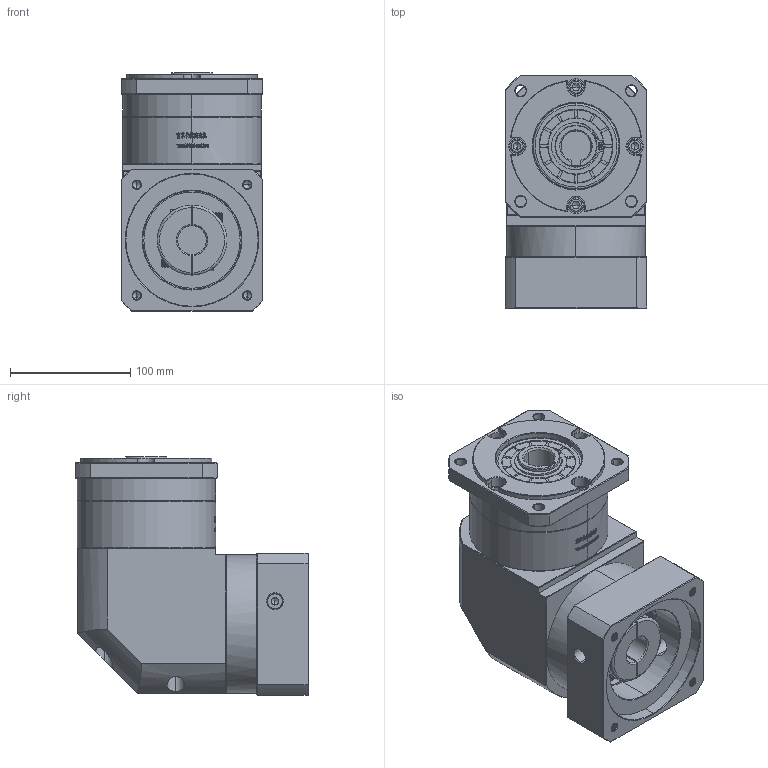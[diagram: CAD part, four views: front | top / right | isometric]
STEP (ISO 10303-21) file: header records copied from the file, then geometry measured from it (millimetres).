
FILE_DESCRIPTION (( 'STEP AP214' ), '1' );
FILE_NAME ('ZFR120A-K25-L1-24-110-130-M8.step', '2023-03-08T08:30:06', ( '' ), ( '' ), 'SwSTEP 2.0', 'SolidWorks 2016', '' );
FILE_SCHEMA (( 'AUTOMOTIVE_DESIGN' ));
Length unit declared in the file: millimetre
Products named in the file (1): ZFR120A-K25-L1-24-110-130-M8
Bounding box: 118 x 193.9 x 198 mm (x, y, z)
Volume: 2825834.1 mm3; surface area: 242132.8 mm2
Topology: 6 solids, 6 shells, 2814 faces, 7533 edges, 4864 vertices
Faces by surface type: plane 1477, bspline 597, cylinder 401, cone 331, torus 8
Entity records: 152464 total; most frequent: CARTESIAN_POINT 56813, ORIENTED_EDGE 15010, DIRECTION 10941, EDGE_CURVE 7505, VERTEX_POINT 4864, VECTOR 4697, LINE 4697, AXIS2_PLACEMENT_3D 3122
